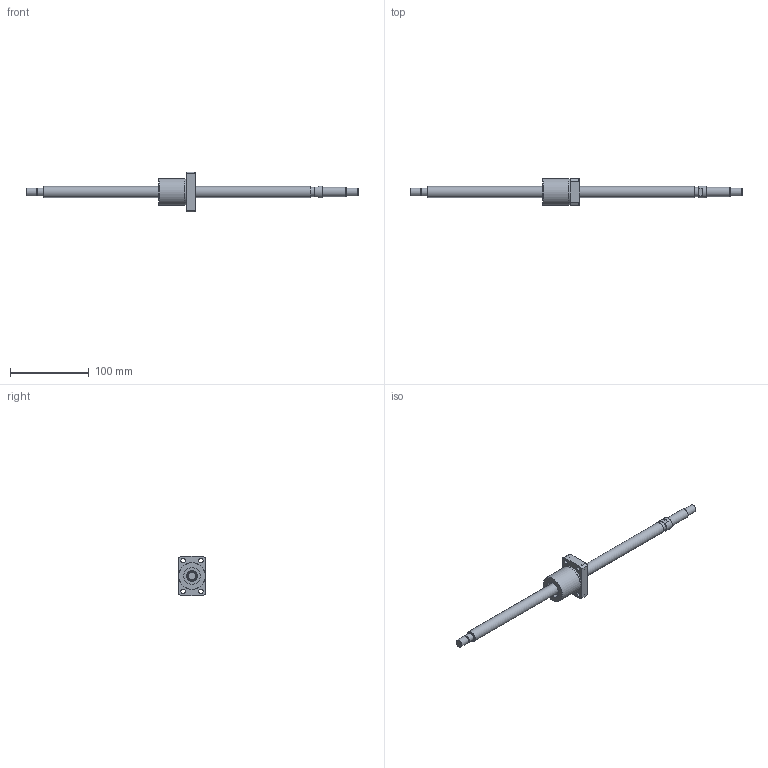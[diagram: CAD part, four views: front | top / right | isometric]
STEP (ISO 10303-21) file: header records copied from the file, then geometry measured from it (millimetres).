
FILE_DESCRIPTION(/* description */ ('STEP AP203'),/* implementation_level */ '2;1');
FILE_NAME(/* name */ 'BNK1408-2.5RRG0+421LC5Y(192.50)',/* time_stamp */ '2024-07-09T09:17:13+02:00',/* author */ ('License CC BY-ND 4.0'),/* organization */ ('CADENAS'),/* preprocessor_version */ 'ST-DEVELOPER v19.3',/* originating_system */ 'PARTsolutions',/* authorisation */ ' ');
FILE_SCHEMA (('CONFIG_CONTROL_DESIGN'));
Length unit declared in the file: millimetre
Products named in the file (3): BNK1408-2.5RRG0+421LC5Y(192.50); BNK 1408-2.5RRG0+421LC5Y Shaft; BNK 1408-2.5RRG0+421LC5YRR0 Nut
Assembly tree (2 placements, depth 2):
  BNK1408-2.5RRG0+421LC5Y(192.50)
    BNK 1408-2.5RRG0+421LC5Y Shaft
    BNK 1408-2.5RRG0+421LC5YRR0 Nut
Bounding box: 421 x 34 x 50 mm (x, y, z)
Volume: 99397.6 mm3; surface area: 30162.8 mm2
Topology: 2 solids, 2 shells, 74 faces, 159 edges, 102 vertices
Faces by surface type: plane 28, cylinder 27, cone 17, torus 2
Full cylindrical faces by diameter (mm): 4.917 x2, 5.5 x4, 9.5 x4, 9.6 x1, 10 x3, 12 x2, 14 x2, 15 x1, 21 x2, 33.4 x1, 34 x1
Entity records: 1940 total; most frequent: CARTESIAN_POINT 349, DIRECTION 336, ORIENTED_EDGE 242, AXIS2_PLACEMENT_3D 155, FACE_BOUND 134, EDGE_LOOP 133, EDGE_CURVE 121, VERTEX_POINT 99
